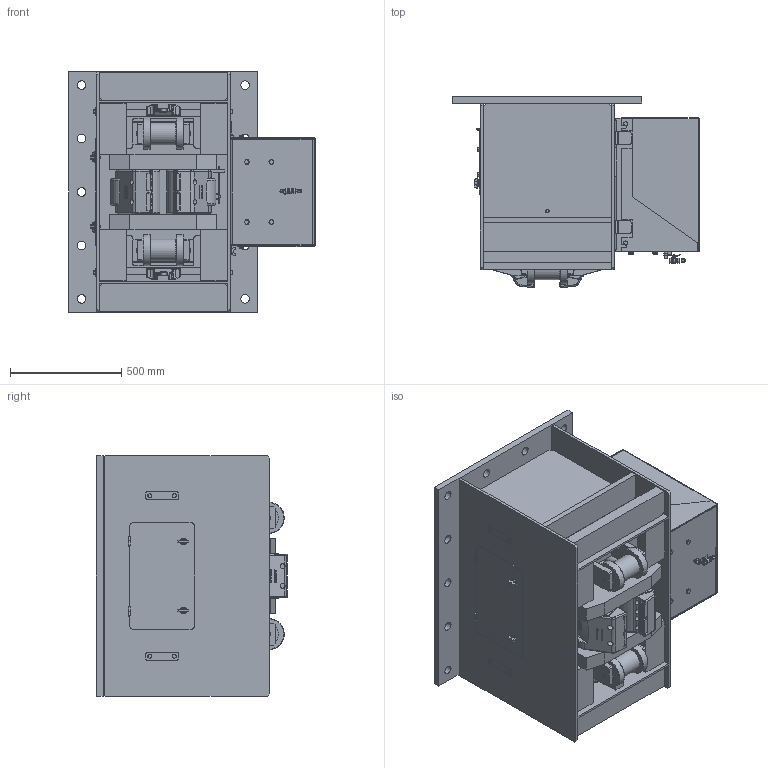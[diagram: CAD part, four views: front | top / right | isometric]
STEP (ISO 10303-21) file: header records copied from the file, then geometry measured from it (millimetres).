
FILE_DESCRIPTION(/* description */ (''),/* implementation_level */ '2;1');
FILE_NAME(/* name */ 'C:\Vault_Workspace\HILLMAR\HILLMAR PRODUCTION\02 STORM BRAKES\0100-2\01002083 CXHV-LH-300-600-LE\SM3D-CXHV-LH-300-600\41581.stp',/* time_stamp */ '2016-10-24T11:03:53+02:00',/* author */ ('vlakrc01'),/* organization */ (''),/* preprocessor_version */ 'ST-DEVELOPER v16.1',/* originating_system */ 'Autodesk Inventor 2016',/* authorisation */ '');
FILE_SCHEMA (('AUTOMOTIVE_DESIGN { 1 0 10303 214 3 1 1 }'));
Products named in the file (1): 41581
Bounding box: 1107.7 x 858.76 x 1080 mm (x, y, z)
Volume: 128865503.5 mm3; surface area: 13703370.8 mm2
Topology: 17 solids, 17 shells, 3993 faces, 10619 edges, 6753 vertices
Faces by surface type: plane 2152, cylinder 768, bspline 588, cone 295, torus 108, sphere 82
Full cylindrical faces by diameter (mm): 3 x1, 5.058 x1, 5.5 x2, 7 x1, 8.767 x1, 9.188 x7, 9.246 x1, 9.8 x2, 10 x6, 10.109 x4, 10.557 x1, 11.053 x4, 11.113 x1, 12 x6, 13 x2, 15.4 x7, 16 x2, 17.2 x4, 18 x4, 19.063 x1, 20 x1, 21.031 x4, 22.4 x4, 23.828 x1, 24 x4, 25 x4, 25.082 x1, 30 x2, 39 x14, 47.75 x4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
Entity records: 142485 total; most frequent: CARTESIAN_POINT 44549, ORIENTED_EDGE 20614, DIRECTION 17877, EDGE_CURVE 10306, VERTEX_POINT 6684, AXIS2_PLACEMENT_3D 6045, LINE 5787, VECTOR 5787
